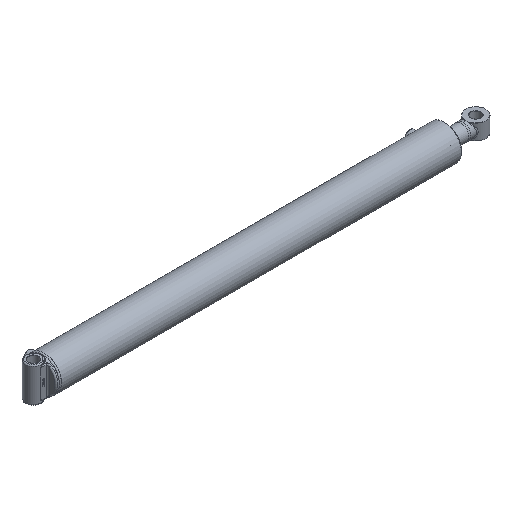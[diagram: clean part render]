
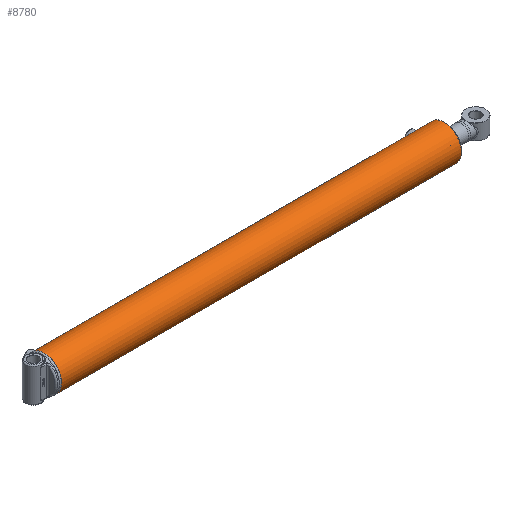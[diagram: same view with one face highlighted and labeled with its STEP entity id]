
A CAD part, isometric view. The second image highlights one B-rep face of the part: STEP entity #8780.
In plain terms, the highlighted cylindrical face has radius 56.356 mm (diameter 112.712 mm), a full revolution.
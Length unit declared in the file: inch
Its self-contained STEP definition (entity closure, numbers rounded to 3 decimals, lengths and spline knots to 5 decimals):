
#808=B_SPLINE_CURVE_WITH_KNOTS('',3,(#13133,#13134,#13135,#13136,#13137,
#13138,#13139,#13140,#13141,#13142),.UNSPECIFIED.,.F.,.F.,(4,2,2,2,4),(0.,
0.23942,0.47883,0.71824,0.95766),
 .UNSPECIFIED.);
#809=B_SPLINE_CURVE_WITH_KNOTS('',3,(#13143,#13144,#13145,#13146,#13147,
#13148,#13149,#13150,#13151,#13152,#13153,#13154,#13155,#13156,#13157,#13158,
#13159,#13160,#13161,#13162,#13163,#13164,#13165,#13166,#13167,#13168),
 .UNSPECIFIED.,.F.,.F.,(4,2,2,2,2,2,2,2,2,2,2,2,4),(0.95766,1.19707,
1.43649,1.6759,1.91532,2.15473,2.39415,
2.63356,2.87297,3.11239,3.3518,3.59122,
3.83063),.UNSPECIFIED.);
#810=B_SPLINE_CURVE_WITH_KNOTS('',3,(#13173,#13174,#13175,#13176,#13177,
#13178,#13179,#13180,#13181,#13182),.UNSPECIFIED.,.F.,.F.,(4,2,2,2,4),(0.,
0.23942,0.47883,0.71824,0.95766),
 .UNSPECIFIED.);
#811=B_SPLINE_CURVE_WITH_KNOTS('',3,(#13183,#13184,#13185,#13186,#13187,
#13188,#13189,#13190,#13191,#13192,#13193,#13194,#13195,#13196,#13197,#13198,
#13199,#13200,#13201,#13202,#13203,#13204,#13205,#13206,#13207,#13208),
 .UNSPECIFIED.,.F.,.F.,(4,2,2,2,2,2,2,2,2,2,2,2,4),(0.95766,1.19707,
1.43649,1.6759,1.91532,2.15473,2.39415,
2.63356,2.87297,3.11239,3.3518,3.59122,
3.83063),.UNSPECIFIED.);
#1096=FACE_BOUND('',#2595,.T.);
#1097=FACE_BOUND('',#2596,.T.);
#1352=LINE('',#13244,#1693);
#1693=VECTOR('',#10661,2.21875);
#2031=CYLINDRICAL_SURFACE('',#9525,2.21875);
#2119=FACE_OUTER_BOUND('',#2594,.T.);
#2594=EDGE_LOOP('',(#6139,#6140,#6141,#6142,#6143,#6144));
#2595=EDGE_LOOP('',(#6145,#6146));
#2596=EDGE_LOOP('',(#6147,#6148));
#3157=CIRCLE('',#9522,2.21875);
#3159=CIRCLE('',#9524,2.21875);
#3160=CIRCLE('',#9526,2.21875);
#3161=CIRCLE('',#9527,2.21875);
#3801=VERTEX_POINT('',#13130);
#3802=VERTEX_POINT('',#13132);
#3803=VERTEX_POINT('',#13170);
#3804=VERTEX_POINT('',#13172);
#3815=VERTEX_POINT('',#13237);
#3816=VERTEX_POINT('',#13238);
#3817=VERTEX_POINT('',#13243);
#3818=VERTEX_POINT('',#13245);
#4736=EDGE_CURVE('',#3802,#3801,#808,.T.);
#4737=EDGE_CURVE('',#3801,#3802,#809,.T.);
#4739=EDGE_CURVE('',#3804,#3803,#810,.T.);
#4740=EDGE_CURVE('',#3803,#3804,#811,.T.);
#4754=EDGE_CURVE('',#3815,#3816,#3157,.T.);
#4756=EDGE_CURVE('',#3816,#3815,#3159,.T.);
#4757=EDGE_CURVE('',#3815,#3817,#1352,.T.);
#4758=EDGE_CURVE('',#3818,#3817,#3160,.T.);
#4759=EDGE_CURVE('',#3817,#3818,#3161,.T.);
#6139=ORIENTED_EDGE('',*,*,#4754,.F.);
#6140=ORIENTED_EDGE('',*,*,#4757,.T.);
#6141=ORIENTED_EDGE('',*,*,#4758,.F.);
#6142=ORIENTED_EDGE('',*,*,#4759,.F.);
#6143=ORIENTED_EDGE('',*,*,#4757,.F.);
#6144=ORIENTED_EDGE('',*,*,#4756,.F.);
#6145=ORIENTED_EDGE('',*,*,#4736,.T.);
#6146=ORIENTED_EDGE('',*,*,#4737,.T.);
#6147=ORIENTED_EDGE('',*,*,#4739,.T.);
#6148=ORIENTED_EDGE('',*,*,#4740,.T.);
#8780=ADVANCED_FACE('',(#2119,#1096,#1097),#2031,.T.);
#9522=AXIS2_PLACEMENT_3D('',#13239,#10653,#10654);
#9524=AXIS2_PLACEMENT_3D('',#13241,#10657,#10658);
#9525=AXIS2_PLACEMENT_3D('',#13242,#10659,#10660);
#9526=AXIS2_PLACEMENT_3D('',#13246,#10662,#10663);
#9527=AXIS2_PLACEMENT_3D('',#13247,#10664,#10665);
#10653=DIRECTION('center_axis',(1.,0.,0.));
#10654=DIRECTION('ref_axis',(0.,-1.,0.));
#10657=DIRECTION('center_axis',(1.,0.,0.));
#10658=DIRECTION('ref_axis',(0.,-1.,0.));
#10659=DIRECTION('center_axis',(1.,0.,0.));
#10660=DIRECTION('ref_axis',(0.,-1.,0.));
#10661=DIRECTION('',(-1.,0.,0.));
#10662=DIRECTION('center_axis',(-1.,0.,0.));
#10663=DIRECTION('ref_axis',(0.,-1.,0.));
#10664=DIRECTION('center_axis',(-1.,0.,0.));
#10665=DIRECTION('ref_axis',(0.,-1.,0.));
#13130=CARTESIAN_POINT('',(0.75,0.,2.21875));
#13132=CARTESIAN_POINT('',(1.,-0.25,2.20462));
#13133=CARTESIAN_POINT('Ctrl Pts',(1.,-0.25,2.20462));
#13134=CARTESIAN_POINT('Ctrl Pts',(0.96858,-0.25,2.20462));
#13135=CARTESIAN_POINT('Ctrl Pts',(0.93509,-0.24372,
2.20536));
#13136=CARTESIAN_POINT('Ctrl Pts',(0.8735,-0.21819,
2.20803));
#13137=CARTESIAN_POINT('Ctrl Pts',(0.8454,-0.19896,
2.20992));
#13138=CARTESIAN_POINT('Ctrl Pts',(0.80104,-0.1546,
2.21347));
#13139=CARTESIAN_POINT('Ctrl Pts',(0.78181,-0.1265,
2.21536));
#13140=CARTESIAN_POINT('Ctrl Pts',(0.75628,-0.06491,
2.21801));
#13141=CARTESIAN_POINT('Ctrl Pts',(0.75,-0.03142,2.21875));
#13142=CARTESIAN_POINT('Ctrl Pts',(0.75,0.,2.21875));
#13143=CARTESIAN_POINT('Ctrl Pts',(0.75,0.,2.21875));
#13144=CARTESIAN_POINT('Ctrl Pts',(0.75,0.03142,2.21875));
#13145=CARTESIAN_POINT('Ctrl Pts',(0.75628,0.06491,2.21801));
#13146=CARTESIAN_POINT('Ctrl Pts',(0.78181,0.1265,
2.21536));
#13147=CARTESIAN_POINT('Ctrl Pts',(0.80104,0.1546,
2.21347));
#13148=CARTESIAN_POINT('Ctrl Pts',(0.8454,0.19896,
2.20992));
#13149=CARTESIAN_POINT('Ctrl Pts',(0.8735,0.21819,2.20803));
#13150=CARTESIAN_POINT('Ctrl Pts',(0.93509,0.24372,
2.20536));
#13151=CARTESIAN_POINT('Ctrl Pts',(0.96858,0.25,2.20462));
#13152=CARTESIAN_POINT('Ctrl Pts',(1.03142,0.25,2.20462));
#13153=CARTESIAN_POINT('Ctrl Pts',(1.06491,0.24372,2.20536));
#13154=CARTESIAN_POINT('Ctrl Pts',(1.1265,0.21819,2.20803));
#13155=CARTESIAN_POINT('Ctrl Pts',(1.1546,0.19896,2.20992));
#13156=CARTESIAN_POINT('Ctrl Pts',(1.19896,0.1546,2.21347));
#13157=CARTESIAN_POINT('Ctrl Pts',(1.21819,0.1265,2.21536));
#13158=CARTESIAN_POINT('Ctrl Pts',(1.24372,0.06491,
2.21801));
#13159=CARTESIAN_POINT('Ctrl Pts',(1.25,0.03142,2.21875));
#13160=CARTESIAN_POINT('Ctrl Pts',(1.25,-0.03142,2.21875));
#13161=CARTESIAN_POINT('Ctrl Pts',(1.24372,-0.06491,
2.21801));
#13162=CARTESIAN_POINT('Ctrl Pts',(1.21819,-0.1265,
2.21536));
#13163=CARTESIAN_POINT('Ctrl Pts',(1.19896,-0.1546,
2.21347));
#13164=CARTESIAN_POINT('Ctrl Pts',(1.1546,-0.19896,
2.20992));
#13165=CARTESIAN_POINT('Ctrl Pts',(1.1265,-0.21819,2.20803));
#13166=CARTESIAN_POINT('Ctrl Pts',(1.06491,-0.24372,2.20536));
#13167=CARTESIAN_POINT('Ctrl Pts',(1.03142,-0.25,2.20462));
#13168=CARTESIAN_POINT('Ctrl Pts',(1.,-0.25,2.20462));
#13170=CARTESIAN_POINT('',(49.87,0.,2.21875));
#13172=CARTESIAN_POINT('',(50.12,-0.25,2.20462));
#13173=CARTESIAN_POINT('Ctrl Pts',(50.12,-0.25,2.20462));
#13174=CARTESIAN_POINT('Ctrl Pts',(50.08858,-0.25,
2.20462));
#13175=CARTESIAN_POINT('Ctrl Pts',(50.05509,-0.24372,
2.20536));
#13176=CARTESIAN_POINT('Ctrl Pts',(49.9935,-0.21819,
2.20803));
#13177=CARTESIAN_POINT('Ctrl Pts',(49.9654,-0.19896,
2.20992));
#13178=CARTESIAN_POINT('Ctrl Pts',(49.92104,-0.1546,
2.21347));
#13179=CARTESIAN_POINT('Ctrl Pts',(49.90181,-0.1265,
2.21536));
#13180=CARTESIAN_POINT('Ctrl Pts',(49.87628,-0.06491,
2.21801));
#13181=CARTESIAN_POINT('Ctrl Pts',(49.87,-0.03142,2.21875));
#13182=CARTESIAN_POINT('Ctrl Pts',(49.87,0.,2.21875));
#13183=CARTESIAN_POINT('Ctrl Pts',(49.87,0.,2.21875));
#13184=CARTESIAN_POINT('Ctrl Pts',(49.87,0.03142,2.21875));
#13185=CARTESIAN_POINT('Ctrl Pts',(49.87628,0.06491,
2.21801));
#13186=CARTESIAN_POINT('Ctrl Pts',(49.90181,0.1265,2.21536));
#13187=CARTESIAN_POINT('Ctrl Pts',(49.92104,0.1546,2.21347));
#13188=CARTESIAN_POINT('Ctrl Pts',(49.9654,0.19896,2.20992));
#13189=CARTESIAN_POINT('Ctrl Pts',(49.9935,0.21819,2.20803));
#13190=CARTESIAN_POINT('Ctrl Pts',(50.05509,0.24372,2.20536));
#13191=CARTESIAN_POINT('Ctrl Pts',(50.08858,0.25,2.20462));
#13192=CARTESIAN_POINT('Ctrl Pts',(50.15142,0.25,2.20462));
#13193=CARTESIAN_POINT('Ctrl Pts',(50.18491,0.24372,2.20536));
#13194=CARTESIAN_POINT('Ctrl Pts',(50.2465,0.21819,2.20803));
#13195=CARTESIAN_POINT('Ctrl Pts',(50.2746,0.19896,2.20992));
#13196=CARTESIAN_POINT('Ctrl Pts',(50.31896,0.1546,2.21347));
#13197=CARTESIAN_POINT('Ctrl Pts',(50.33819,0.1265,2.21536));
#13198=CARTESIAN_POINT('Ctrl Pts',(50.36372,0.06491,
2.21801));
#13199=CARTESIAN_POINT('Ctrl Pts',(50.37,0.03142,2.21875));
#13200=CARTESIAN_POINT('Ctrl Pts',(50.37,-0.03142,2.21875));
#13201=CARTESIAN_POINT('Ctrl Pts',(50.36372,-0.06491,
2.21801));
#13202=CARTESIAN_POINT('Ctrl Pts',(50.33819,-0.1265,
2.21536));
#13203=CARTESIAN_POINT('Ctrl Pts',(50.31896,-0.1546,
2.21347));
#13204=CARTESIAN_POINT('Ctrl Pts',(50.2746,-0.19896,
2.20992));
#13205=CARTESIAN_POINT('Ctrl Pts',(50.2465,-0.21819,
2.20803));
#13206=CARTESIAN_POINT('Ctrl Pts',(50.18491,-0.24372,
2.20536));
#13207=CARTESIAN_POINT('Ctrl Pts',(50.15142,-0.25,
2.20462));
#13208=CARTESIAN_POINT('Ctrl Pts',(50.12,-0.25,2.20462));
#13237=CARTESIAN_POINT('',(51.61,2.21875,0.));
#13238=CARTESIAN_POINT('',(51.61,0.,-2.21875));
#13239=CARTESIAN_POINT('Origin',(51.61,0.,0.));
#13241=CARTESIAN_POINT('Origin',(51.61,0.,0.));
#13242=CARTESIAN_POINT('Origin',(0.,0.,0.));
#13243=CARTESIAN_POINT('',(0.11186,2.21875,0.));
#13244=CARTESIAN_POINT('',(0.,2.21875,0.));
#13245=CARTESIAN_POINT('',(0.11186,0.,2.21875));
#13246=CARTESIAN_POINT('Origin',(0.11186,0.,0.));
#13247=CARTESIAN_POINT('Origin',(0.11186,0.,0.));
